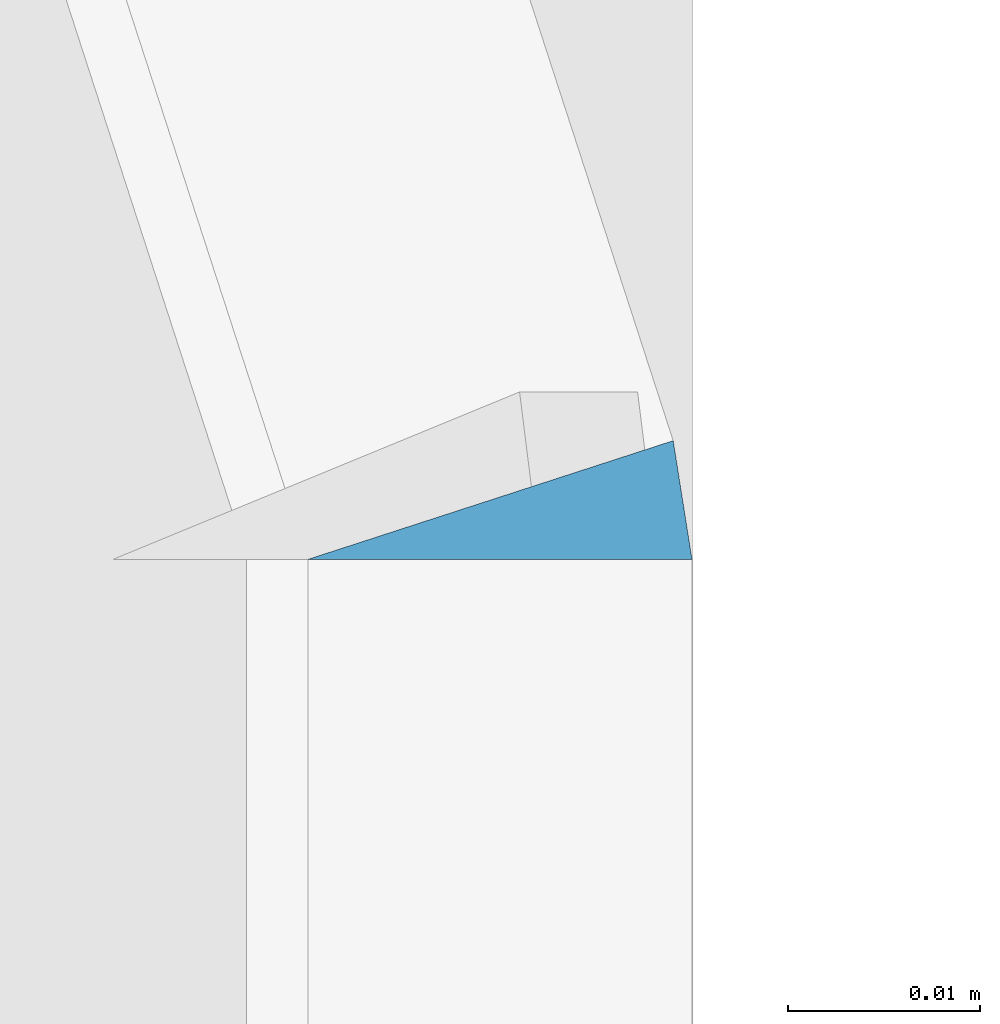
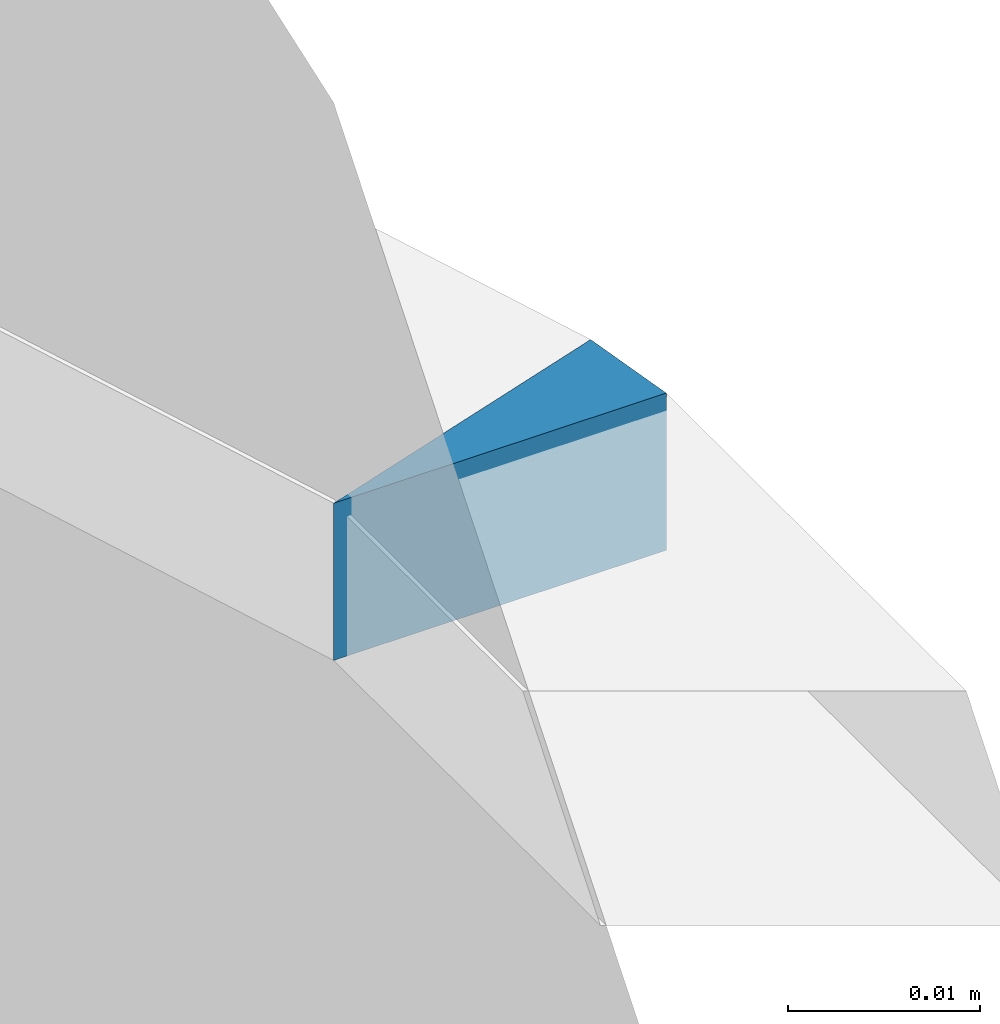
# One storey, part 370 of 583: 1 slab.
"""IFC2X3 building model written with IfcOpenShell, lengths in metres."""

import ifcopenshell
import ifcopenshell.guid

model = None  # the IFC model being written
_history = None  # IfcOwnerHistory: only IFC2X3 demands one
_inside = {}  # id of a spatial element -> (the spatial element, [elements in it])
_under = {}  # id of a project, library or spatial element -> (it, [spatial elements below it])
_declared = {}  # id of a project -> (the project, [libraries it declares])
_typed = {}  # id of a type object -> (the type object, [elements of that type])
_made_of = {}  # id of a material, layer set ... -> (it, [elements and type objects made of it])


def new_model(schema):
    """Start an empty IFC model of exactly this schema.

    Asked for "IFC4X3", IfcOpenShell would pick the latest addendum, in which some entities
    have other attributes; the version numbers below select the first issue.
    IFC2X3 requires an IfcOwnerHistory on every rooted entity: one is made here for all.
    """
    global model, _history
    if schema == "IFC4X3":
        model = ifcopenshell.file(schema_version=(4, 3, 0, 0))
    else:
        model = ifcopenshell.file(schema=schema)
    _inside.clear()
    _under.clear()
    _declared.clear()
    _typed.clear()
    _made_of.clear()
    _history = None
    if model.schema == "IFC2X3":
        org = make("IfcOrganization", Name="unknown")
        user = make(
            "IfcPersonAndOrganization",
            ThePerson=make("IfcPerson", FamilyName="unknown"),
            TheOrganization=org,
        )
        app = make(
            "IfcApplication",
            ApplicationDeveloper=org,
            Version="unknown",
            ApplicationFullName="unknown",
            ApplicationIdentifier="unknown",
        )
        _history = make(
            "IfcOwnerHistory",
            OwningUser=user,
            OwningApplication=app,
            ChangeAction="ADDED",
            CreationDate=0,
        )
    return model


def make(cls, **values):
    """One entity of the class cls with the attributes given. An attribute that is None is left unset."""
    return model.create_entity(
        cls, **{name: value for name, value in values.items() if value is not None}
    )


def entity(cls, *values):
    """Any entity or typed value of the class cls, its attributes in the order of the schema. None: left unset."""
    e = model.create_entity(cls)
    for i, value in enumerate(values):
        if value is not None:
            e[i] = value
    return e


def rooted(cls, **values):
    """An entity with a GlobalId (a new one), such as an element, a storey or a relation."""
    return make(cls, GlobalId=ifcopenshell.guid.new(), OwnerHistory=_history, **values)


def si_unit(unit_type, name, prefix=None):
    """IfcSIUnit, for example si_unit("LENGTHUNIT", "METRE", prefix="MILLI")."""
    return make("IfcSIUnit", UnitType=unit_type, Prefix=prefix, Name=name)


def converted_unit(unit_type, name, factor, base, dimensions=None, offset=None):
    """IfcConversionBasedUnit, such as the inch: factor (a typed value) times the base unit."""
    return make(
        "IfcConversionBasedUnit"
        if offset is None
        else "IfcConversionBasedUnitWithOffset",
        ConversionOffset=offset,
        Dimensions=None
        if dimensions is None
        else entity("IfcDimensionalExponents", *dimensions),
        UnitType=unit_type,
        Name=name,
        ConversionFactor=make(
            "IfcMeasureWithUnit", ValueComponent=factor, UnitComponent=base
        ),
    )


def derived_unit(unit_type, elements):
    """IfcDerivedUnit: a product of units, each with its exponent."""
    return make(
        "IfcDerivedUnit",
        Elements=[
            make("IfcDerivedUnitElement", Unit=unit, Exponent=power)
            for unit, power in elements
        ],
        UnitType=unit_type,
    )


def money_unit(currency):
    """IfcMonetaryUnit."""
    return make("IfcMonetaryUnit", Currency=currency)


def assignment(units):
    """IfcUnitAssignment: the units of a project."""
    return None if units is None else make("IfcUnitAssignment", Units=units)


def point(xyz):
    """IfcCartesianPoint."""
    return None if xyz is None else make("IfcCartesianPoint", Coordinates=xyz)


def direction(xyz):
    """IfcDirection."""
    return None if xyz is None else make("IfcDirection", DirectionRatios=xyz)


def frame(location, z_axis=None, x_axis=None):
    """IfcAxis2Placement3D, a coordinate frame: its origin and axes. An axis left out is left unset."""
    return make(
        "IfcAxis2Placement3D",
        Location=point(location),
        Axis=direction(z_axis),
        RefDirection=direction(x_axis),
    )


def origin_with_axes():
    """The frame at (0, 0, 0) with the z axis (0, 0, 1) and the x axis (1, 0, 0) written out."""
    return frame((0.0, 0.0, 0.0), z_axis=(0.0, 0.0, 1.0), x_axis=(1.0, 0.0, 0.0))


def place(relative_to, where):
    """IfcLocalPlacement: puts the frame where relative to a parent placement (None: the world)."""
    return make(
        "IfcLocalPlacement", PlacementRelTo=relative_to, RelativePlacement=where
    )


def context(
    kind, dimensions, precision=None, world=None, true_north=None, identifier=None
):
    """IfcGeometricRepresentationContext, for example the 3D "Model" context."""
    return make(
        "IfcGeometricRepresentationContext",
        ContextIdentifier=identifier,
        ContextType=kind,
        CoordinateSpaceDimension=dimensions,
        Precision=precision,
        WorldCoordinateSystem=world,
        TrueNorth=true_north,
    )


def subcontext(parent, identifier, kind, view, scale=None):
    """IfcGeometricRepresentationSubContext, for example "Body" below "Model"."""
    return make(
        "IfcGeometricRepresentationSubContext",
        ContextIdentifier=identifier,
        ContextType=kind,
        ParentContext=parent,
        TargetScale=scale,
        TargetView=view,
    )


def project(units=None, contexts=None):
    """IfcProject with its units and contexts."""
    return rooted(
        "IfcProject",
        Name="project",
        RepresentationContexts=contexts,
        UnitsInContext=assignment(units),
    )


def spatial(cls, under=None, at=None, **own):
    """A site, building, storey or space (cls), placed at a placement, below another one or the project."""
    s = rooted(cls, ObjectPlacement=at, **own)
    if under is not None:
        _under.setdefault(under.id(), (under, []))[1].append(s)
    return s


def faces_of(points, faces, orient=None, outer=None):
    """IfcFace entities. A face is a list of loops; a loop is a list of indices into points, from 0.

    orient and outer hold one flag for each loop. By default every Orientation is true, the
    first loop of a face is its IfcFaceOuterBound and the others are IfcFaceBound.
    """
    made = []
    for i, loops in enumerate(faces):
        bounds = []
        for j, loop in enumerate(loops):
            is_outer = j == 0 if outer is None else outer[i][j]
            bounds.append(
                make(
                    "IfcFaceOuterBound" if is_outer else "IfcFaceBound",
                    Bound=make("IfcPolyLoop", Polygon=[points[k] for k in loop]),
                    Orientation=True if orient is None else orient[i][j],
                )
            )
        made.append(make("IfcFace", Bounds=bounds))
    return made


def faceted_brep(points, faces, orient=None, outer=None, voids=None):
    """IfcFacetedBrep: a solid bounded by flat faces; with voids (closed shells), ...WithVoids."""
    shared = [point(p) for p in points]
    hull = make("IfcClosedShell", CfsFaces=faces_of(shared, faces, orient, outer))
    if voids is None:
        return make("IfcFacetedBrep", Outer=hull)
    return make(
        "IfcFacetedBrepWithVoids",
        Outer=hull,
        Voids=[
            make(cls, CfsFaces=faces_of(shared, fs, o, b)) for cls, fs, o, b in voids
        ],
    )


def shape(context_of_items, identifier, shape_type, items):
    """IfcShapeRepresentation: the items that make up one representation, for example the "Body"."""
    return make(
        "IfcShapeRepresentation",
        ContextOfItems=context_of_items,
        RepresentationIdentifier=identifier,
        RepresentationType=shape_type,
        Items=items,
    )


def material(Name=None, Category=None):
    """IfcMaterial."""
    return make("IfcMaterial", Name=Name, Category=Category)


def made_of(thing, what):
    """Note that an element or type object is made of a material, layer set ...; save() writes the relation."""
    if what is not None:
        _made_of.setdefault(what.id(), (what, []))[1].append(thing)
    return thing


def type_object(cls, material=None, **own):
    """A type object (cls), such as IfcWallType, which elements share."""
    return made_of(rooted(cls, **own), material)


def element(
    cls,
    number,
    at=None,
    inside=None,
    cuts=None,
    type_object=None,
    material=None,
    context=None,
    identifier="Body",
    shape_type=None,
    held_by="IfcProductDefinitionShape",
    body=None,
    shapes=None,
    **own,
):
    """One element of the class cls, such as IfcWall. Its Tag is "e" and its number.

    at: its placement. inside: the storey or other place that contains it. cuts: it is an
    opening in that element (IfcRelVoidsElement). A single representation is given by context,
    identifier, shape_type and body (its items); several are given by shapes. held_by: the class
    of the entity that holds the representations. save() writes the other relations.
    """
    e = rooted(cls, Tag="e%d" % number, ObjectPlacement=at, **own)
    if body is not None:
        shapes = [shape(context, identifier, shape_type, body)]
    if shapes is not None:
        e.Representation = make(held_by, Representations=shapes)
    if inside is not None:
        _inside.setdefault(inside.id(), (inside, []))[1].append(e)
    if cuts is not None:
        rooted(
            "IfcRelVoidsElement", RelatingBuildingElement=cuts, RelatedOpeningElement=e
        )
    if type_object is not None:
        _typed.setdefault(type_object.id(), (type_object, []))[1].append(e)
    return made_of(e, material)


def aggregate(whole, parts):
    """IfcRelAggregates: a whole, such as a stair, and the parts it consists of."""
    return rooted("IfcRelAggregates", RelatingObject=whole, RelatedObjects=parts)


def save(model, path):
    """Write the relations noted so far, then the file.

    IfcRelAggregates (storeys below a building ...), IfcRelContainedInSpatialStructure (elements
    in a storey), IfcRelDefinesByType, IfcRelAssociatesMaterial and IfcRelDeclares: one each for
    every whole, place, type object, material and project.
    """
    for whole, parts in _under.values():
        aggregate(whole, parts)
    for where, things in _inside.values():
        rooted(
            "IfcRelContainedInSpatialStructure",
            RelatedElements=things,
            RelatingStructure=where,
        )
    for kind, things in _typed.values():
        rooted("IfcRelDefinesByType", RelatedObjects=things, RelatingType=kind)
    for what, things in _made_of.values():
        rooted("IfcRelAssociatesMaterial", RelatedObjects=things, RelatingMaterial=what)
    for by, libraries in _declared.values():
        rooted("IfcRelDeclares", RelatingContext=by, RelatedDefinitions=libraries)
    model.write(path)


model = new_model("IFC2X3")

# Units and contexts
model_context = context("Model", 3, precision=1e-05, world=origin_with_axes(), true_north=direction((0.0, 1.0)))
body_context = subcontext(model_context, "Body", "Model", "MODEL_VIEW", scale=1.0)
ifc_project = project(units=[si_unit("LENGTHUNIT", "METRE"), si_unit("AREAUNIT", "SQUARE_METRE"), si_unit("VOLUMEUNIT", "CUBIC_METRE"), si_unit("ABSORBEDDOSEUNIT", "GRAY"), si_unit("AMOUNTOFSUBSTANCEUNIT", "MOLE"), si_unit("DOSEEQUIVALENTUNIT", "SIEVERT"), si_unit("ELECTRICCAPACITANCEUNIT", "FARAD"), si_unit("ELECTRICCHARGEUNIT", "COULOMB"), si_unit("ELECTRICCONDUCTANCEUNIT", "SIEMENS"), si_unit("ELECTRICCURRENTUNIT", "AMPERE"), si_unit("ELECTRICRESISTANCEUNIT", "OHM"), si_unit("ELECTRICVOLTAGEUNIT", "VOLT"), si_unit("ENERGYUNIT", "JOULE"), si_unit("FORCEUNIT", "NEWTON"), si_unit("FREQUENCYUNIT", "HERTZ"), si_unit("ILLUMINANCEUNIT", "LUX"), si_unit("INDUCTANCEUNIT", "HENRY"), si_unit("LUMINOUSFLUXUNIT", "LUMEN"), si_unit("LUMINOUSINTENSITYUNIT", "CANDELA"), si_unit("MAGNETICFLUXDENSITYUNIT", "TESLA"), si_unit("MAGNETICFLUXUNIT", "WEBER"), si_unit("MASSUNIT", "GRAM"), converted_unit("PLANEANGLEUNIT", "degree", entity("IfcReal", 0.0174532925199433), si_unit("PLANEANGLEUNIT", "RADIAN"), dimensions=[0, 0, 0, 0, 0, 0, 0]), si_unit("POWERUNIT", "WATT"), si_unit("PRESSUREUNIT", "PASCAL"), si_unit("RADIOACTIVITYUNIT", "BECQUEREL"), si_unit("SOLIDANGLEUNIT", "STERADIAN"), si_unit("THERMODYNAMICTEMPERATUREUNIT", "KELVIN"), si_unit("TIMEUNIT", "SECOND"), derived_unit("ACCELERATIONUNIT", [(si_unit("LENGTHUNIT", "METRE"), 1), (si_unit("TIMEUNIT", "SECOND"), -2)]), derived_unit("ANGULARVELOCITYUNIT", [(converted_unit("PLANEANGLEUNIT", "degree", entity("IfcReal", 0.0174532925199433), si_unit("PLANEANGLEUNIT", "RADIAN"), dimensions=[0, 0, 0, 0, 0, 0, 0]), 1), (si_unit("TIMEUNIT", "SECOND"), -1)]), derived_unit("CURVATUREUNIT", [(converted_unit("PLANEANGLEUNIT", "degree", entity("IfcReal", 0.0174532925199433), si_unit("PLANEANGLEUNIT", "RADIAN"), dimensions=[0, 0, 0, 0, 0, 0, 0]), 1), (si_unit("LENGTHUNIT", "METRE"), -1)]), derived_unit("DYNAMICVISCOSITYUNIT", [(si_unit("PRESSUREUNIT", "PASCAL"), 1), (si_unit("TIMEUNIT", "SECOND"), 1)]), derived_unit("HEATFLUXDENSITYUNIT", [(si_unit("POWERUNIT", "WATT"), 1), (si_unit("LENGTHUNIT", "METRE"), -2)]), derived_unit("HEATINGVALUEUNIT", [(si_unit("ENERGYUNIT", "JOULE"), 1), (si_unit("MASSUNIT", "GRAM"), -1)]), derived_unit("INTEGERCOUNTRATEUNIT", [(si_unit("TIMEUNIT", "SECOND"), -1)]), derived_unit("IONCONCENTRATIONUNIT", [(si_unit("MASSUNIT", "GRAM"), 1), (si_unit("VOLUMEUNIT", "CUBIC_METRE"), -1)]), derived_unit("ISOTHERMALMOISTURECAPACITYUNIT", [(si_unit("VOLUMEUNIT", "CUBIC_METRE"), 1), (si_unit("MASSUNIT", "GRAM"), -1)]), derived_unit("KINEMATICVISCOSITYUNIT", [(si_unit("AREAUNIT", "SQUARE_METRE"), 1), (si_unit("TIMEUNIT", "SECOND"), -1)]), derived_unit("LINEARFORCEUNIT", [(si_unit("FORCEUNIT", "NEWTON"), 1), (si_unit("LENGTHUNIT", "METRE"), -1)]), derived_unit("LINEARMOMENTUNIT", [(si_unit("FORCEUNIT", "NEWTON"), 1), (si_unit("LENGTHUNIT", "METRE"), -1)]), derived_unit("LINEARSTIFFNESSUNIT", [(si_unit("FORCEUNIT", "NEWTON"), 1), (si_unit("LENGTHUNIT", "METRE"), -1)]), derived_unit("LINEARVELOCITYUNIT", [(si_unit("LENGTHUNIT", "METRE"), 1), (si_unit("TIMEUNIT", "SECOND"), -1)]), derived_unit("LUMINOUSINTENSITYDISTRIBUTIONUNIT", [(si_unit("LUMINOUSINTENSITYUNIT", "CANDELA"), 1), (si_unit("LUMINOUSFLUXUNIT", "LUMEN"), -1)]), derived_unit("MASSDENSITYUNIT", [(si_unit("MASSUNIT", "GRAM"), 1), (si_unit("VOLUMEUNIT", "CUBIC_METRE"), -1)]), derived_unit("MASSFLOWRATEUNIT", [(si_unit("MASSUNIT", "GRAM"), 1), (si_unit("TIMEUNIT", "SECOND"), -1)]), derived_unit("MASSPERLENGTHUNIT", [(si_unit("MASSUNIT", "GRAM"), 1), (si_unit("LENGTHUNIT", "METRE"), -1)]), derived_unit("MODULUSOFELASTICITYUNIT", [(si_unit("FORCEUNIT", "NEWTON"), 1), (si_unit("AREAUNIT", "SQUARE_METRE"), -1)]), derived_unit("MODULUSOFLINEARSUBGRADEREACTIONUNIT", [(si_unit("FORCEUNIT", "NEWTON"), 1), (si_unit("LENGTHUNIT", "METRE"), -2)]), derived_unit("MODULUSOFROTATIONALSUBGRADEREACTIONUNIT", [(si_unit("FORCEUNIT", "NEWTON"), 1), (si_unit("LENGTHUNIT", "METRE"), 1)]), derived_unit("MODULUSOFSUBGRADEREACTIONUNIT", [(si_unit("FORCEUNIT", "NEWTON"), 1), (si_unit("VOLUMEUNIT", "CUBIC_METRE"), -1)]), derived_unit("MOISTUREDIFFUSIVITYUNIT", [(si_unit("VOLUMEUNIT", "CUBIC_METRE"), 1), (si_unit("TIMEUNIT", "SECOND"), -1)]), derived_unit("MOLECULARWEIGHTUNIT", [(si_unit("MASSUNIT", "GRAM"), 1), (si_unit("AMOUNTOFSUBSTANCEUNIT", "MOLE"), -1)]), derived_unit("PLANARFORCEUNIT", [(si_unit("FORCEUNIT", "NEWTON"), 1), (si_unit("LENGTHUNIT", "METRE"), -2)]), derived_unit("ROTATIONALFREQUENCYUNIT", [(si_unit("TIMEUNIT", "SECOND"), -1)]), derived_unit("ROTATIONALMASSUNIT", [(si_unit("MASSUNIT", "GRAM"), 1), (si_unit("LENGTHUNIT", "METRE"), 2)]), derived_unit("ROTATIONALSTIFFNESSUNIT", [(si_unit("FORCEUNIT", "NEWTON"), 1), (si_unit("LENGTHUNIT", "METRE"), 1), (converted_unit("PLANEANGLEUNIT", "degree", entity("IfcReal", 0.0174532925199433), si_unit("PLANEANGLEUNIT", "RADIAN"), dimensions=[0, 0, 0, 0, 0, 0, 0]), -1)]), derived_unit("SECTIONAREAINTEGRALUNIT", [(si_unit("LENGTHUNIT", "METRE"), 5)]), derived_unit("SECTIONMODULUSUNIT", [(si_unit("LENGTHUNIT", "METRE"), 3)]), derived_unit("SHEARMODULUSUNIT", [(si_unit("FORCEUNIT", "NEWTON"), 1), (si_unit("AREAUNIT", "SQUARE_METRE"), -1)]), derived_unit("SOUNDPOWERUNIT", [(si_unit("ENERGYUNIT", "JOULE"), 1), (si_unit("TIMEUNIT", "SECOND"), -1)]), derived_unit("SPECIFICHEATCAPACITYUNIT", [(si_unit("FORCEUNIT", "NEWTON"), 1), (si_unit("MASSUNIT", "GRAM"), -1), (si_unit("THERMODYNAMICTEMPERATUREUNIT", "KELVIN"), -1)]), derived_unit("TEMPERATUREGRADIENTUNIT", [(si_unit("THERMODYNAMICTEMPERATUREUNIT", "KELVIN"), 1), (si_unit("LENGTHUNIT", "METRE"), -1)]), derived_unit("THERMALADMITTANCEUNIT", [(si_unit("POWERUNIT", "WATT"), 1), (si_unit("AREAUNIT", "SQUARE_METRE"), -1), (si_unit("THERMODYNAMICTEMPERATUREUNIT", "KELVIN"), -1)]), derived_unit("THERMALCONDUCTANCEUNIT", [(si_unit("POWERUNIT", "WATT"), 1), (si_unit("LENGTHUNIT", "METRE"), -1), (si_unit("THERMODYNAMICTEMPERATUREUNIT", "KELVIN"), -1)]), derived_unit("THERMALEXPANSIONCOEFFICIENTUNIT", [(si_unit("THERMODYNAMICTEMPERATUREUNIT", "KELVIN"), -1)]), derived_unit("THERMALRESISTANCEUNIT", [(si_unit("AREAUNIT", "SQUARE_METRE"), 1), (si_unit("POWERUNIT", "WATT"), -1)]), derived_unit("THERMALTRANSMITTANCEUNIT", [(si_unit("POWERUNIT", "WATT"), 1), (si_unit("AREAUNIT", "SQUARE_METRE"), -1), (si_unit("THERMODYNAMICTEMPERATUREUNIT", "KELVIN"), -1)]), derived_unit("TORQUEUNIT", [(si_unit("FORCEUNIT", "NEWTON"), 1), (si_unit("LENGTHUNIT", "METRE"), 1)]), derived_unit("VAPORPERMEABILITYUNIT", [(si_unit("MASSUNIT", "GRAM"), 1), (si_unit("TIMEUNIT", "SECOND"), -1)]), derived_unit("VOLUMETRICFLOWRATEUNIT", [(si_unit("VOLUMEUNIT", "CUBIC_METRE"), 1), (si_unit("TIMEUNIT", "SECOND"), -1)]), derived_unit("WARPINGCONSTANTUNIT", [(si_unit("LENGTHUNIT", "METRE"), 6)]), derived_unit("WARPINGMOMENTUNIT", [(si_unit("FORCEUNIT", "NEWTON"), 1), (si_unit("LENGTHUNIT", "METRE"), 2)]), money_unit("GBP")], contexts=[model_context])

# Site, building, storey
site_placement = place(None, origin_with_axes())
site = spatial("IfcSite", under=ifc_project, at=site_placement, Name="Site", CompositionType="ELEMENT")
building_placement = place(site_placement, origin_with_axes())
building = spatial("IfcBuilding", under=site, at=building_placement, Name="Building01", CompositionType="ELEMENT")
storey_placement = place(building_placement, frame((0.0, 0.0, 20.78), z_axis=(0.0, 0.0, 1.0), x_axis=(1.0, 0.0, 0.0)))
storey = spatial("IfcBuildingStorey", under=building, at=storey_placement, Name="RL", CompositionType="ELEMENT", Elevation=20.78)

# Slab
ifc_material = material(Name="A_BSUK_Roofs")
slab_type = type_object("IfcSlabType", Name="A-FloorsSlabs A_BSUK_Slabs", PredefinedType="FLOOR")
slab_placement = place(storey_placement, frame((14.399021, 16.280608, -16.044976), z_axis=(0.0, 1.0, 0.0), x_axis=(0.0, 0.0, -1.0)))
element("IfcSlab", 1, at=slab_placement, inside=storey, type_object=slab_type, material=ifc_material, Name="A-FloorsSlabs A_BSUK_Slabs", ObjectType="A-FloorsSlabs A_BSUK_Slabs", context=body_context, shape_type="Brep", body=[
    faceted_brep([(0.0, 0.0, 0.0), (-0.01, 0.0, 0.0), (-0.01, -0.000979, -0.00618), (0.0, -0.000979, -0.00618), (-0.01, 0.019021, -0.00618), (0.0, 0.019021, -0.00618)], [[[0, 1, 2, 3]], [[3, 2, 4, 5]], [[5, 4, 1, 0]], [[1, 4, 2]], [[3, 5, 0]]]),
])

save(model, "model.ifc")
